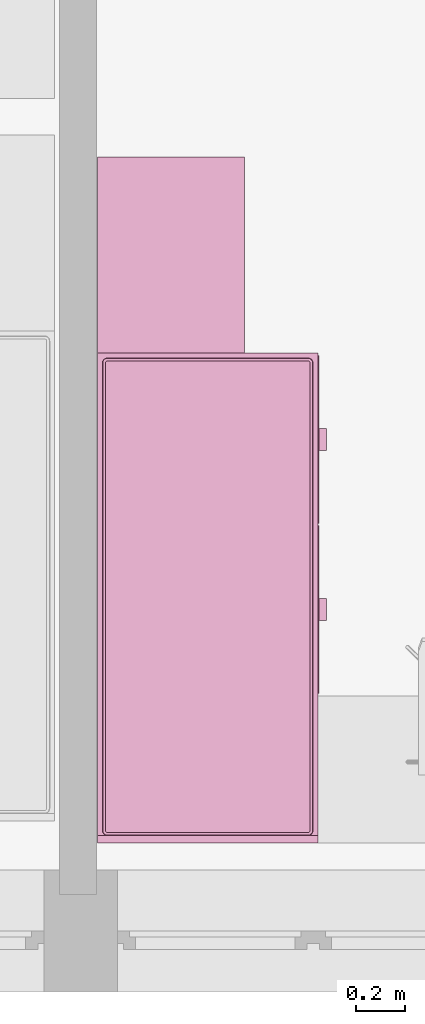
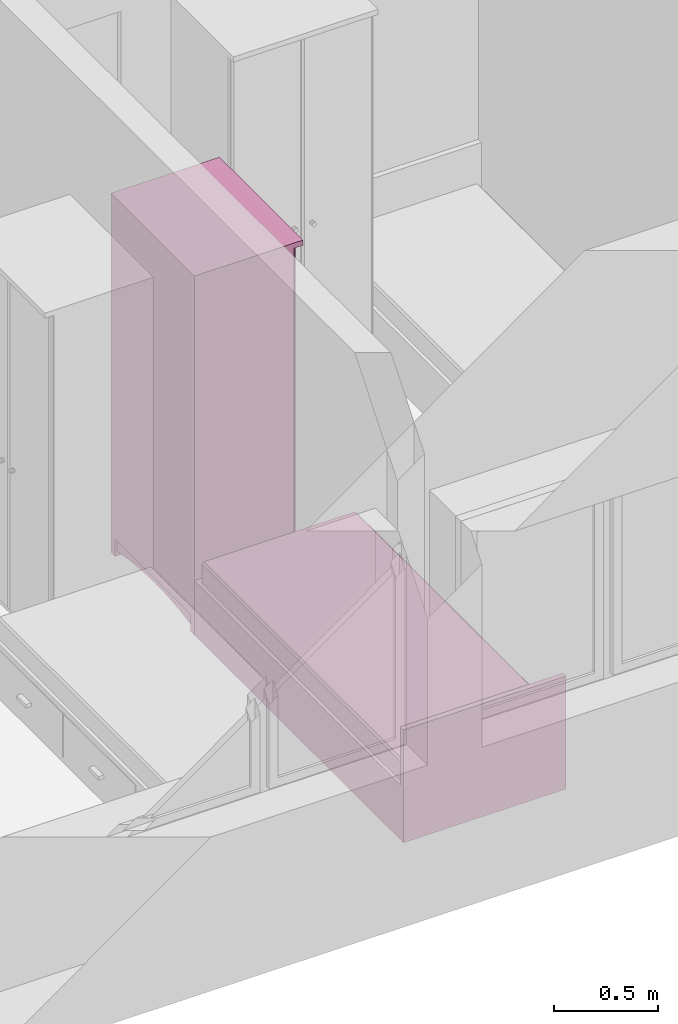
# One storey, part 77 of 165: 2 furnishings.
"""IFC2X3 building model written with IfcOpenShell, lengths in millimetres."""

from ifc_helpers import new_model, entity, si_unit, converted_unit, money_unit, direction, frame, origin_with_axes, place, context, subcontext, project, spatial, faceted_brep, source, transform, mapped, material, material_list, type_object, element, save


model = new_model("IFC2X3")

# Units and contexts
model_context = context("Model", 3, precision=1e-05, world=origin_with_axes(), true_north=direction((0.0, 1.0)))
body_context = subcontext(model_context, "Body", "Model", "MODEL_VIEW")
ifc_project = project(units=[si_unit("LENGTHUNIT", "METRE", prefix="MILLI"), si_unit("AREAUNIT", "SQUARE_METRE"), si_unit("VOLUMEUNIT", "CUBIC_METRE"), converted_unit("PLANEANGLEUNIT", "DEGREE", entity("IfcPlaneAngleMeasure", 0.0174532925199), si_unit("PLANEANGLEUNIT", "RADIAN"), dimensions=[0, 0, 0, 0, 0, 0, 0]), si_unit("SOLIDANGLEUNIT", "STERADIAN"), money_unit("USD"), converted_unit("TIMEUNIT", "Year", entity("IfcTimeMeasure", 31556926.0), si_unit("TIMEUNIT", "SECOND"), dimensions=[0, 0, 0, 0, 0, 0, 0]), si_unit("MASSUNIT", "GRAM"), si_unit("THERMODYNAMICTEMPERATUREUNIT", "DEGREE_CELSIUS"), si_unit("LUMINOUSINTENSITYUNIT", "LUMEN")], contexts=[model_context])

# Site, building, storey
site_placement = place(None, origin_with_axes())
site = spatial("IfcSite", under=ifc_project, at=site_placement, Name="Site", CompositionType="ELEMENT")
building_placement = place(site_placement, origin_with_axes())
building = spatial("IfcBuilding", under=site, at=building_placement, Name="Building", CompositionType="ELEMENT")
storey_placement = place(building_placement, frame((0.0, 0.0, 6300.0), z_axis=(0.0, 0.0, 1.0), x_axis=(1.0, 0.0, 0.0)))
storey = spatial("IfcBuildingStorey", under=building, at=storey_placement, Name="4KORRUS", CompositionType="ELEMENT", Elevation=6300.0)

# Furnishings
ifc_material = material(Name="Background")
ifc_material_list = material_list([ifc_material])
furnishing_element_type_1 = type_object("IfcFurnishingElementType", Name="Cupboard 19")
shared_shape_1 = source(origin_with_axes(), body_context, "Body", "Brep", [
    faceted_brep([(780.0, 600.0, 120.0), (780.0, 600.0, 2050.0), (780.0, 580.0, 2050.0), (780.0, 580.0, 120.0), (20.0, 600.0, 120.0), (20.0, 600.0, 2050.0), (20.0, 580.0, 2050.0), (20.0, 580.0, 120.0)], [[[0, 1, 2, 3]], [[4, 5, 1, 0]], [[1, 5, 6, 2]], [[3, 2, 6, 7]], [[0, 3, 7, 4]], [[7, 6, 5, 4]]]),
    faceted_brep([(0.0, 50.0, 100.0), (0.0, 600.0, 100.0), (20.0, 600.0, 100.0), (20.0, 50.0, 100.0), (0.0, 50.0, 2070.0), (0.0, 600.0, 2070.0), (20.0, 600.0, 2070.0), (20.0, 50.0, 2070.0)], [[[0, 1, 2, 3]], [[0, 4, 5, 1]], [[1, 5, 6, 2]], [[2, 6, 7, 3]], [[3, 7, 4, 0]], [[7, 6, 5, 4]]]),
    faceted_brep([(780.0, 50.0, 100.0), (780.0, 600.0, 100.0), (800.0, 600.0, 100.0), (800.0, 50.0, 100.0), (780.0, 50.0, 2070.0), (780.0, 600.0, 2070.0), (800.0, 600.0, 2070.0), (800.0, 50.0, 2070.0)], [[[0, 1, 2, 3]], [[0, 4, 5, 1]], [[1, 5, 6, 2]], [[2, 6, 7, 3]], [[3, 7, 4, 0]], [[7, 6, 5, 4]]]),
    faceted_brep([(20.0, 50.0, 100.0), (20.0, 600.0, 100.0), (780.0, 600.0, 100.0), (780.0, 50.0, 100.0), (20.0, 50.0, 120.0), (20.0, 600.0, 120.0), (780.0, 600.0, 120.0), (780.0, 50.0, 120.0)], [[[0, 1, 2, 3]], [[0, 4, 5, 1]], [[1, 5, 6, 2]], [[2, 6, 7, 3]], [[3, 7, 4, 0]], [[7, 6, 5, 4]]]),
    faceted_brep([(20.0, 50.0, 2050.0), (20.0, 600.0, 2050.0), (780.0, 600.0, 2050.0), (780.0, 50.0, 2050.0), (20.0, 50.0, 2070.0), (20.0, 600.0, 2070.0), (780.0, 600.0, 2070.0), (780.0, 50.0, 2070.0)], [[[0, 1, 2, 3]], [[0, 4, 5, 1]], [[1, 5, 6, 2]], [[2, 6, 7, 3]], [[3, 7, 4, 0]], [[7, 6, 5, 4]]]),
    faceted_brep([(0.0, 600.0, 2070.0), (0.0, 0.0, 2070.0), (0.0, 0.0, 2100.0), (0.0, 600.0, 2100.0), (800.0, 600.0, 2070.0), (800.0, 0.0, 2070.0), (800.0, 0.0, 2100.0), (800.0, 600.0, 2100.0)], [[[0, 1, 2, 3]], [[0, 4, 5, 1]], [[1, 5, 6, 2]], [[3, 2, 6, 7]], [[4, 0, 3, 7]], [[5, 4, 7, 6]]]),
    faceted_brep([(760.0, 590.0, 25.0), (760.0, 570.0, 25.0), (640.962, 570.0, 45.8), (640.962, 590.0, 45.8), (760.0, 590.0, 100.0), (760.0, 570.0, 100.0), (40.0, 570.0, 100.0), (40.0, 570.0, 25.0), (159.038, 570.0, 45.8), (279.23, 570.0, 58.32), (400.0, 570.0, 62.5), (520.77, 570.0, 58.32), (520.77, 590.0, 58.32), (400.0, 590.0, 62.5), (279.23, 590.0, 58.32), (159.038, 590.0, 45.8), (40.0, 590.0, 25.0), (40.0, 590.0, 100.0)], [[[0, 1, 2, 3]], [[4, 5, 1, 0]], [[1, 5, 6, 7, 8, 9, 10, 11, 2]], [[3, 2, 11, 12]], [[0, 3, 12, 13, 14, 15, 16, 17, 4]], [[17, 6, 5, 4]], [[16, 7, 6, 17]], [[15, 8, 7, 16]], [[14, 9, 8, 15]], [[13, 10, 9, 14]], [[12, 11, 10, 13]]]),
    faceted_brep([(760.0, 80.0, 25.0), (760.0, 60.0, 25.0), (640.962, 60.0, 45.8), (640.962, 80.0, 45.8), (760.0, 80.0, 100.0), (760.0, 60.0, 100.0), (40.0, 60.0, 100.0), (40.0, 60.0, 25.0), (159.038, 60.0, 45.8), (279.23, 60.0, 58.32), (400.0, 60.0, 62.5), (520.77, 60.0, 58.32), (520.77, 80.0, 58.32), (400.0, 80.0, 62.5), (279.23, 80.0, 58.32), (159.038, 80.0, 45.8), (40.0, 80.0, 25.0), (40.0, 80.0, 100.0)], [[[0, 1, 2, 3]], [[4, 5, 1, 0]], [[1, 5, 6, 7, 8, 9, 10, 11, 2]], [[3, 2, 11, 12]], [[0, 3, 12, 13, 14, 15, 16, 17, 4]], [[17, 6, 5, 4]], [[16, 7, 6, 17]], [[15, 8, 7, 16]], [[14, 9, 8, 15]], [[13, 10, 9, 14]], [[12, 11, 10, 13]]]),
    faceted_brep([(790.0, 90.0, 25.0), (770.0, 90.0, 25.0), (770.0, 141.266, 38.072), (790.0, 141.266, 38.072), (790.0, 90.0, 100.0), (770.0, 90.0, 100.0), (770.0, 560.0, 100.0), (770.0, 560.0, 25.0), (770.0, 508.734, 38.072), (770.0, 456.752, 47.92), (770.0, 404.257, 54.508), (770.0, 351.453, 57.808), (770.0, 298.547, 57.808), (770.0, 245.743, 54.508), (770.0, 193.248, 47.92), (790.0, 193.248, 47.92), (790.0, 245.743, 54.508), (790.0, 298.547, 57.808), (790.0, 351.453, 57.808), (790.0, 404.257, 54.508), (790.0, 456.752, 47.92), (790.0, 508.734, 38.072), (790.0, 560.0, 25.0), (790.0, 560.0, 100.0)], [[[0, 1, 2, 3]], [[4, 5, 1, 0]], [[1, 5, 6, 7, 8, 9, 10, 11, 12, 13, 14, 2]], [[3, 2, 14, 15]], [[0, 3, 15, 16, 17, 18, 19, 20, 21, 22, 23, 4]], [[23, 6, 5, 4]], [[22, 7, 6, 23]], [[21, 8, 7, 22]], [[20, 9, 8, 21]], [[19, 10, 9, 20]], [[18, 11, 10, 19]], [[17, 12, 11, 18]], [[16, 13, 12, 17]], [[15, 14, 13, 16]]]),
    faceted_brep([(30.0, 90.0, 25.0), (10.0, 90.0, 25.0), (10.0, 141.266, 38.072), (30.0, 141.266, 38.072), (30.0, 90.0, 100.0), (10.0, 90.0, 100.0), (10.0, 560.0, 100.0), (10.0, 560.0, 25.0), (10.0, 508.734, 38.072), (10.0, 456.752, 47.92), (10.0, 404.257, 54.508), (10.0, 351.453, 57.808), (10.0, 298.547, 57.808), (10.0, 245.743, 54.508), (10.0, 193.248, 47.92), (30.0, 193.248, 47.92), (30.0, 245.743, 54.508), (30.0, 298.547, 57.808), (30.0, 351.453, 57.808), (30.0, 404.257, 54.508), (30.0, 456.752, 47.92), (30.0, 508.734, 38.072), (30.0, 560.0, 25.0), (30.0, 560.0, 100.0)], [[[0, 1, 2, 3]], [[4, 5, 1, 0]], [[1, 5, 6, 7, 8, 9, 10, 11, 12, 13, 14, 2]], [[3, 2, 14, 15]], [[0, 3, 15, 16, 17, 18, 19, 20, 21, 22, 23, 4]], [[23, 6, 5, 4]], [[22, 7, 6, 23]], [[21, 8, 7, 22]], [[20, 9, 8, 21]], [[19, 10, 9, 20]], [[18, 11, 10, 19]], [[17, 12, 11, 18]], [[16, 13, 12, 17]], [[15, 14, 13, 16]]]),
    faceted_brep([(760.0, 560.0, 0.0), (760.0, 560.0, 100.0), (760.0, 600.0, 100.0), (760.0, 600.0, 0.0), (800.0, 560.0, 0.0), (800.0, 560.0, 100.0), (800.0, 600.0, 100.0), (800.0, 600.0, 0.0)], [[[0, 1, 2, 3]], [[4, 5, 1, 0]], [[1, 5, 6, 2]], [[3, 2, 6, 7]], [[0, 3, 7, 4]], [[7, 6, 5, 4]]]),
    faceted_brep([(0.0, 560.0, 0.0), (0.0, 560.0, 100.0), (0.0, 600.0, 100.0), (0.0, 600.0, 0.0), (40.0, 560.0, 0.0), (40.0, 560.0, 100.0), (40.0, 600.0, 100.0), (40.0, 600.0, 0.0)], [[[0, 1, 2, 3]], [[4, 5, 1, 0]], [[1, 5, 6, 2]], [[3, 2, 6, 7]], [[0, 3, 7, 4]], [[7, 6, 5, 4]]]),
    faceted_brep([(760.0, 50.0, 0.0), (760.0, 50.0, 100.0), (760.0, 90.0, 100.0), (760.0, 90.0, 0.0), (800.0, 50.0, 0.0), (800.0, 50.0, 100.0), (800.0, 90.0, 100.0), (800.0, 90.0, 0.0)], [[[0, 1, 2, 3]], [[4, 5, 1, 0]], [[1, 5, 6, 2]], [[3, 2, 6, 7]], [[0, 3, 7, 4]], [[7, 6, 5, 4]]]),
    faceted_brep([(0.0, 50.0, 0.0), (0.0, 50.0, 100.0), (0.0, 90.0, 100.0), (0.0, 90.0, 0.0), (40.0, 50.0, 0.0), (40.0, 50.0, 100.0), (40.0, 90.0, 100.0), (40.0, 90.0, 0.0)], [[[0, 1, 2, 3]], [[4, 5, 1, 0]], [[1, 5, 6, 2]], [[3, 2, 6, 7]], [[0, 3, 7, 4]], [[7, 6, 5, 4]]]),
    faceted_brep([(780.0, 580.0, 587.5), (780.0, 580.0, 607.5), (780.0, 50.0, 607.5), (780.0, 50.0, 587.5), (20.0, 580.0, 587.5), (20.0, 580.0, 607.5), (20.0, 50.0, 607.5), (20.0, 50.0, 587.5)], [[[0, 1, 2, 3]], [[4, 5, 1, 0]], [[1, 5, 6, 2]], [[3, 2, 6, 7]], [[0, 3, 7, 4]], [[7, 6, 5, 4]]]),
    faceted_brep([(780.0, 580.0, 1075.0), (780.0, 580.0, 1095.0), (780.0, 50.0, 1095.0), (780.0, 50.0, 1075.0), (20.0, 580.0, 1075.0), (20.0, 580.0, 1095.0), (20.0, 50.0, 1095.0), (20.0, 50.0, 1075.0)], [[[0, 1, 2, 3]], [[4, 5, 1, 0]], [[1, 5, 6, 2]], [[3, 2, 6, 7]], [[0, 3, 7, 4]], [[7, 6, 5, 4]]]),
    faceted_brep([(780.0, 580.0, 1562.5), (780.0, 580.0, 1582.5), (780.0, 50.0, 1582.5), (780.0, 50.0, 1562.5), (20.0, 580.0, 1562.5), (20.0, 580.0, 1582.5), (20.0, 50.0, 1582.5), (20.0, 50.0, 1562.5)], [[[0, 1, 2, 3]], [[4, 5, 1, 0]], [[1, 5, 6, 2]], [[3, 2, 6, 7]], [[0, 3, 7, 4]], [[7, 6, 5, 4]]]),
    faceted_brep([(789.5, 50.0, 110.5), (400.5, 50.0, 110.5), (400.5, 50.0, 2059.5), (789.5, 50.0, 2059.5), (789.5, 40.0, 110.5), (400.5, 40.0, 110.5), (400.5, 40.0, 2059.5), (789.5, 40.0, 2059.5), (779.5, 30.0, 120.5), (410.5, 30.0, 120.5), (410.5, 30.0, 2049.5), (779.5, 30.0, 2049.5)], [[[0, 1, 2, 3]], [[0, 4, 5, 1]], [[1, 5, 6, 2]], [[2, 6, 7, 3]], [[3, 7, 4, 0]], [[4, 8, 9, 5]], [[5, 9, 10, 6]], [[6, 10, 11, 7]], [[7, 11, 8, 4]], [[10, 9, 8, 11]]]),
    faceted_brep([(399.5, 50.0, 110.5), (10.5, 50.0, 110.5), (10.5, 50.0, 2059.5), (399.5, 50.0, 2059.5), (399.5, 40.0, 110.5), (10.5, 40.0, 110.5), (10.5, 40.0, 2059.5), (399.5, 40.0, 2059.5), (389.5, 30.0, 120.5), (20.5, 30.0, 120.5), (20.5, 30.0, 2049.5), (389.5, 30.0, 2049.5)], [[[0, 1, 2, 3]], [[0, 4, 5, 1]], [[1, 5, 6, 2]], [[2, 6, 7, 3]], [[3, 7, 4, 0]], [[4, 8, 9, 5]], [[5, 9, 10, 6]], [[6, 10, 11, 7]], [[7, 11, 8, 4]], [[10, 9, 8, 11]]]),
    faceted_brep([(339.608, 30.0, 954.0), (338.0, 30.0, 960.0), (339.608, 30.0, 966.0), (344.0, 30.0, 970.392), (350.0, 30.0, 972.0), (356.0, 30.0, 970.392), (360.392, 30.0, 966.0), (362.0, 30.0, 960.0), (360.392, 30.0, 954.0), (356.0, 30.0, 949.608), (350.0, 30.0, 948.0), (344.0, 30.0, 949.608), (339.608, 5.0, 954.0), (338.0, 5.0, 960.0), (339.608, 5.0, 966.0), (344.0, 5.0, 970.392), (350.0, 5.0, 972.0), (356.0, 5.0, 970.392), (360.392, 5.0, 966.0), (362.0, 5.0, 960.0), (360.392, 5.0, 954.0), (356.0, 5.0, 949.608), (350.0, 5.0, 948.0), (344.0, 5.0, 949.608)], [[[0, 1, 2, 3, 4, 5, 6, 7, 8, 9, 10, 11]], [[0, 12, 13, 1]], [[1, 13, 14, 2]], [[2, 14, 15, 3]], [[3, 15, 16, 4]], [[4, 16, 17, 5]], [[5, 17, 18, 6]], [[6, 18, 19, 7]], [[7, 19, 20, 8]], [[8, 20, 21, 9]], [[9, 21, 22, 10]], [[10, 22, 23, 11]], [[11, 23, 12, 0]], [[12, 23, 22, 21, 20, 19, 18, 17, 16, 15, 14, 13]]]),
    faceted_brep([(460.392, 30.0, 954.0), (456.0, 30.0, 949.608), (450.0, 30.0, 948.0), (444.0, 30.0, 949.608), (439.608, 30.0, 954.0), (438.0, 30.0, 960.0), (439.608, 30.0, 966.0), (444.0, 30.0, 970.392), (450.0, 30.0, 972.0), (456.0, 30.0, 970.392), (460.392, 30.0, 966.0), (462.0, 30.0, 960.0), (460.392, 5.0, 954.0), (456.0, 5.0, 949.608), (450.0, 5.0, 948.0), (444.0, 5.0, 949.608), (439.608, 5.0, 954.0), (438.0, 5.0, 960.0), (439.608, 5.0, 966.0), (444.0, 5.0, 970.392), (450.0, 5.0, 972.0), (456.0, 5.0, 970.392), (460.392, 5.0, 966.0), (462.0, 5.0, 960.0)], [[[0, 1, 2, 3, 4, 5, 6, 7, 8, 9, 10, 11]], [[1, 0, 12, 13]], [[2, 1, 13, 14]], [[3, 2, 14, 15]], [[4, 3, 15, 16]], [[5, 4, 16, 17]], [[6, 5, 17, 18]], [[7, 6, 18, 19]], [[8, 7, 19, 20]], [[9, 8, 20, 21]], [[10, 9, 21, 22]], [[11, 10, 22, 23]], [[0, 11, 23, 12]], [[12, 23, 22, 21, 20, 19, 18, 17, 16, 15, 14, 13]]]),
])
furnishing_1_placement = place(storey_placement, frame((-32465.2967033, -17529.2398994, 0.0), z_axis=(0.0, 0.0, 1.0), x_axis=(0.0, 1.0, 0.0)))
element("IfcFurnishingElement", 1, at=furnishing_1_placement, inside=storey, type_object=furnishing_element_type_1, material=ifc_material_list, Name="FU - 014", context=body_context, shape_type="MappedRepresentation", body=[
    mapped(shared_shape_1, transform((0.0, 0.0, 0.0))),
])
furnishing_element_type_2 = type_object("IfcFurnishingElementType", Name="Bed 19")
shared_shape_2 = source(origin_with_axes(), body_context, "Body", "Brep", [
    faceted_brep([(-900.0, 1970.0, 0.0), (-900.0, 2000.0, 0.0), (0.0, 2000.0, 0.0), (0.0, 1970.0, 0.0), (-900.0, 1970.0, 660.0), (-900.0, 2000.0, 660.0), (0.0, 2000.0, 660.0), (0.0, 1970.0, 660.0)], [[[0, 1, 2, 3]], [[0, 4, 5, 1]], [[1, 5, 6, 2]], [[2, 6, 7, 3]], [[3, 7, 4, 0]], [[7, 6, 5, 4]]]),
    faceted_brep([(-900.0, 0.0, 0.0), (-900.0, 1970.0, 0.0), (0.0, 1970.0, 0.0), (0.0, 0.0, 0.0), (-900.0, 0.0, 320.0), (-900.0, 1970.0, 320.0), (0.0, 1970.0, 320.0), (0.0, 0.0, 320.0)], [[[0, 1, 2, 3]], [[0, 4, 5, 1]], [[1, 5, 6, 2]], [[2, 6, 7, 3]], [[3, 7, 4, 0]], [[7, 6, 5, 4]]]),
    faceted_brep([(-905.0, 10.0, 30.0), (-905.0, 695.0, 30.0), (-900.0, 695.0, 30.0), (-900.0, 10.0, 30.0), (-905.0, 10.0, 290.0), (-905.0, 695.0, 290.0), (-900.0, 695.0, 290.0), (-900.0, 10.0, 290.0)], [[[0, 1, 2, 3]], [[0, 4, 5, 1]], [[1, 5, 6, 2]], [[2, 6, 7, 3]], [[3, 7, 4, 0]], [[7, 6, 5, 4]]]),
    faceted_brep([(-935.0, 307.5, 150.0), (-935.0, 397.5, 150.0), (-905.0, 397.5, 150.0), (-905.0, 307.5, 150.0), (-935.0, 307.5, 170.0), (-935.0, 397.5, 170.0), (-905.0, 397.5, 170.0), (-905.0, 307.5, 170.0)], [[[0, 1, 2, 3]], [[0, 4, 5, 1]], [[1, 5, 6, 2]], [[2, 6, 7, 3]], [[3, 7, 4, 0]], [[7, 6, 5, 4]]]),
    faceted_brep([(-905.0, 705.0, 30.0), (-905.0, 1390.0, 30.0), (-900.0, 1390.0, 30.0), (-900.0, 705.0, 30.0), (-905.0, 705.0, 290.0), (-905.0, 1390.0, 290.0), (-900.0, 1390.0, 290.0), (-900.0, 705.0, 290.0)], [[[0, 1, 2, 3]], [[0, 4, 5, 1]], [[1, 5, 6, 2]], [[2, 6, 7, 3]], [[3, 7, 4, 0]], [[7, 6, 5, 4]]]),
    faceted_brep([(-935.0, 1002.5, 150.0), (-935.0, 1092.5, 150.0), (-905.0, 1092.5, 150.0), (-905.0, 1002.5, 150.0), (-935.0, 1002.5, 170.0), (-935.0, 1092.5, 170.0), (-905.0, 1092.5, 170.0), (-905.0, 1002.5, 170.0)], [[[0, 1, 2, 3]], [[0, 4, 5, 1]], [[1, 5, 6, 2]], [[2, 6, 7, 3]], [[3, 7, 4, 0]], [[7, 6, 5, 4]]]),
    faceted_brep([(-20.0, 40.0, 350.0), (-21.522, 32.346, 350.0), (-25.858, 25.858, 350.0), (-32.346, 21.522, 350.0), (-40.0, 20.0, 350.0), (-860.0, 20.0, 350.0), (-867.654, 21.522, 350.0), (-874.142, 25.858, 350.0), (-878.478, 32.346, 350.0), (-880.0, 40.0, 350.0), (-880.0, 1950.0, 350.0), (-878.478, 1957.654, 350.0), (-874.142, 1964.142, 350.0), (-867.654, 1968.478, 350.0), (-860.0, 1970.0, 350.0), (-40.0, 1970.0, 350.0), (-32.346, 1968.478, 350.0), (-25.858, 1964.142, 350.0), (-21.522, 1957.654, 350.0), (-20.0, 1950.0, 350.0), (-20.0, 40.0, 420.0), (-21.522, 32.346, 420.0), (-25.858, 25.858, 420.0), (-32.346, 21.522, 420.0), (-40.0, 20.0, 420.0), (-860.0, 20.0, 420.0), (-867.654, 21.522, 420.0), (-874.142, 25.858, 420.0), (-878.478, 32.346, 420.0), (-880.0, 40.0, 420.0), (-880.0, 1950.0, 420.0), (-878.478, 1957.654, 420.0), (-874.142, 1964.142, 420.0), (-867.654, 1968.478, 420.0), (-860.0, 1970.0, 420.0), (-40.0, 1970.0, 420.0), (-32.346, 1968.478, 420.0), (-25.858, 1964.142, 420.0), (-21.522, 1957.654, 420.0), (-20.0, 1950.0, 420.0), (-21.522, 40.15, 427.654), (-22.956, 32.94, 427.654), (-26.955, 26.955, 427.654), (-32.94, 22.956, 427.654), (-40.15, 21.522, 427.654), (-859.85, 21.522, 427.654), (-867.06, 22.956, 427.654), (-873.045, 26.955, 427.654), (-877.044, 32.94, 427.654), (-878.478, 40.15, 427.654), (-878.478, 1949.85, 427.654), (-877.044, 1957.06, 427.654), (-873.045, 1963.045, 427.654), (-867.06, 1967.044, 427.654), (-859.85, 1968.478, 427.654), (-40.15, 1968.478, 427.654), (-32.94, 1967.044, 427.654), (-26.955, 1963.045, 427.654), (-22.956, 1957.06, 427.654), (-21.522, 1949.85, 427.654), (-32.346, 41.216, 438.478), (-33.152, 37.164, 438.478), (-34.759, 34.759, 438.478), (-37.164, 33.152, 438.478), (-41.216, 32.346, 438.478), (-858.784, 32.346, 438.478), (-862.836, 33.152, 438.478), (-865.241, 34.759, 438.478), (-866.848, 37.164, 438.478), (-867.654, 41.216, 438.478), (-867.654, 1948.784, 438.478), (-866.848, 1952.836, 438.478), (-865.241, 1955.241, 438.478), (-862.836, 1956.848, 438.478), (-858.784, 1957.654, 438.478), (-41.216, 1957.654, 438.478), (-37.164, 1956.848, 438.478), (-34.759, 1955.241, 438.478), (-33.152, 1952.836, 438.478), (-32.346, 1948.784, 438.478), (-40.0, 41.97, 440.0), (-40.327, 40.327, 440.0), (-40.0, 40.0, 439.924), (-41.97, 40.0, 440.0), (-858.03, 40.0, 440.0), (-859.673, 40.327, 440.0), (-860.0, 40.0, 439.924), (-860.0, 41.97, 440.0), (-860.0, 1948.03, 440.0), (-859.673, 1949.673, 440.0), (-860.0, 1950.0, 439.924), (-858.03, 1950.0, 440.0), (-41.97, 1950.0, 440.0), (-40.327, 1949.673, 440.0), (-40.0, 1950.0, 439.924), (-40.0, 1948.03, 440.0)], [[[0, 1, 2, 3, 4, 5, 6, 7, 8, 9, 10, 11, 12, 13, 14, 15, 16, 17, 18, 19]], [[0, 20, 21, 1]], [[1, 21, 22, 2]], [[2, 22, 23, 3]], [[3, 23, 24, 4]], [[4, 24, 25, 5]], [[5, 25, 26, 6]], [[6, 26, 27, 7]], [[7, 27, 28, 8]], [[8, 28, 29, 9]], [[9, 29, 30, 10]], [[10, 30, 31, 11]], [[11, 31, 32, 12]], [[12, 32, 33, 13]], [[13, 33, 34, 14]], [[14, 34, 35, 15]], [[15, 35, 36, 16]], [[16, 36, 37, 17]], [[17, 37, 38, 18]], [[18, 38, 39, 19]], [[19, 39, 20, 0]], [[20, 40, 41, 21]], [[21, 41, 42, 22]], [[22, 42, 43, 23]], [[23, 43, 44, 24]], [[24, 44, 45, 25]], [[25, 45, 46, 26]], [[26, 46, 47, 27]], [[27, 47, 48, 28]], [[28, 48, 49, 29]], [[29, 49, 50, 30]], [[30, 50, 51, 31]], [[31, 51, 52, 32]], [[32, 52, 53, 33]], [[33, 53, 54, 34]], [[34, 54, 55, 35]], [[35, 55, 56, 36]], [[36, 56, 57, 37]], [[37, 57, 58, 38]], [[38, 58, 59, 39]], [[39, 59, 40, 20]], [[40, 60, 61, 41]], [[41, 61, 62, 42]], [[42, 62, 63, 43]], [[43, 63, 64, 44]], [[44, 64, 65, 45]], [[45, 65, 66, 46]], [[46, 66, 67, 47]], [[47, 67, 68, 48]], [[48, 68, 69, 49]], [[49, 69, 70, 50]], [[50, 70, 71, 51]], [[51, 71, 72, 52]], [[52, 72, 73, 53]], [[53, 73, 74, 54]], [[54, 74, 75, 55]], [[55, 75, 76, 56]], [[56, 76, 77, 57]], [[57, 77, 78, 58]], [[58, 78, 79, 59]], [[59, 79, 60, 40]], [[60, 80, 81, 82, 61]], [[61, 82, 62]], [[62, 82, 63]], [[63, 82, 81, 83, 64]], [[64, 83, 84, 65]], [[65, 84, 85, 86, 66]], [[66, 86, 67]], [[67, 86, 68]], [[68, 86, 85, 87, 69]], [[69, 87, 88, 70]], [[70, 88, 89, 90, 71]], [[71, 90, 72]], [[72, 90, 73]], [[73, 90, 89, 91, 74]], [[74, 91, 92, 75]], [[75, 92, 93, 94, 76]], [[76, 94, 77]], [[77, 94, 78]], [[78, 94, 93, 95, 79]], [[79, 95, 80, 60]], [[95, 93, 92, 91, 89, 88, 87, 85, 84, 83, 81, 80]]]),
    faceted_brep([(-20.0, 40.0, 350.0), (-20.0, 1950.0, 350.0), (-21.522, 1957.654, 350.0), (-25.858, 1964.142, 350.0), (-32.346, 1968.478, 350.0), (-40.0, 1970.0, 350.0), (-860.0, 1970.0, 350.0), (-867.654, 1968.478, 350.0), (-874.142, 1964.142, 350.0), (-878.478, 1957.654, 350.0), (-880.0, 1950.0, 350.0), (-880.0, 40.0, 350.0), (-878.478, 32.346, 350.0), (-874.142, 25.858, 350.0), (-867.654, 21.522, 350.0), (-860.0, 20.0, 350.0), (-40.0, 20.0, 350.0), (-32.346, 21.522, 350.0), (-25.858, 25.858, 350.0), (-21.522, 32.346, 350.0), (-20.0, 40.0, 320.0), (-20.0, 1950.0, 320.0), (-21.522, 1957.654, 320.0), (-25.858, 1964.142, 320.0), (-32.346, 1968.478, 320.0), (-40.0, 1970.0, 320.0), (-860.0, 1970.0, 320.0), (-867.654, 1968.478, 320.0), (-874.142, 1964.142, 320.0), (-878.478, 1957.654, 320.0), (-880.0, 1950.0, 320.0), (-880.0, 40.0, 320.0), (-878.478, 32.346, 320.0), (-874.142, 25.858, 320.0), (-867.654, 21.522, 320.0), (-860.0, 20.0, 320.0), (-40.0, 20.0, 320.0), (-32.346, 21.522, 320.0), (-25.858, 25.858, 320.0), (-21.522, 32.346, 320.0)], [[[0, 1, 2, 3, 4, 5, 6, 7, 8, 9, 10, 11, 12, 13, 14, 15, 16, 17, 18, 19]], [[1, 0, 20, 21]], [[2, 1, 21, 22]], [[3, 2, 22, 23]], [[4, 3, 23, 24]], [[5, 4, 24, 25]], [[6, 5, 25, 26]], [[7, 6, 26, 27]], [[8, 7, 27, 28]], [[9, 8, 28, 29]], [[10, 9, 29, 30]], [[11, 10, 30, 31]], [[12, 11, 31, 32]], [[13, 12, 32, 33]], [[14, 13, 33, 34]], [[15, 14, 34, 35]], [[16, 15, 35, 36]], [[17, 16, 36, 37]], [[18, 17, 37, 38]], [[19, 18, 38, 39]], [[0, 19, 39, 20]], [[20, 39, 38, 37, 36, 35, 34, 33, 32, 31, 30, 29, 28, 27, 26, 25, 24, 23, 22, 21]]]),
])
furnishing_2_placement = place(storey_placement, frame((-33065.2967033, -17529.2398994, 0.0), z_axis=(0.0, 0.0, 1.0), x_axis=(-1.0, 0.0, 0.0)))
element("IfcFurnishingElement", 2, at=furnishing_2_placement, inside=storey, type_object=furnishing_element_type_2, material=ifc_material_list, Name="FU - 013", context=body_context, shape_type="MappedRepresentation", body=[
    mapped(shared_shape_2, transform((0.0, 0.0, 0.0))),
])

save(model, "model.ifc")
